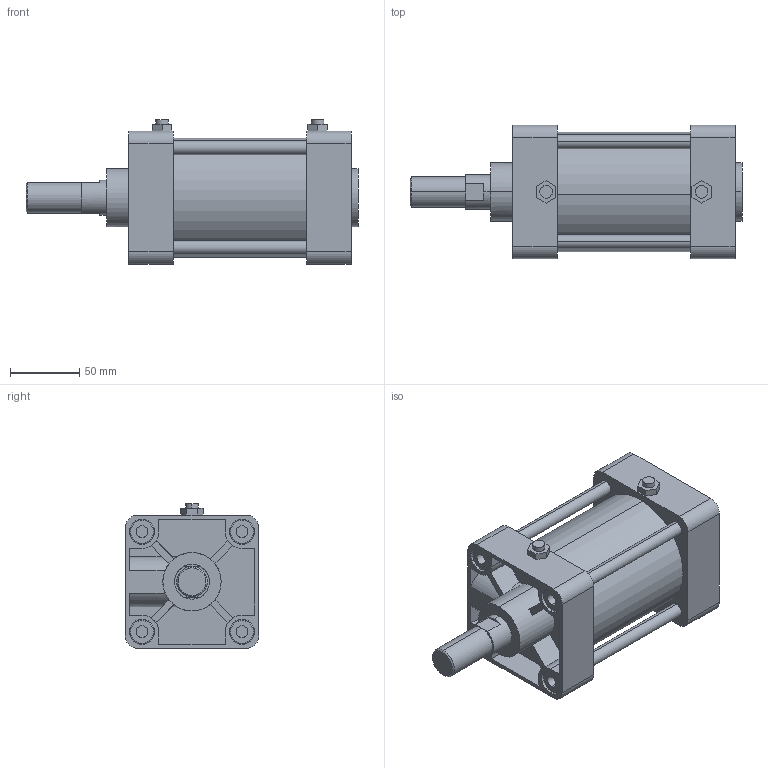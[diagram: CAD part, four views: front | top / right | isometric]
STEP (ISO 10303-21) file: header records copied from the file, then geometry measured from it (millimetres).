
FILE_DESCRIPTION (( 'STEP AP203' ), '1' );
FILE_NAME ('KG2-80-50-N.STEP', '2016-04-01T08:20:36', ( '' ), ( '' ), 'SwSTEP 2.0', 'SolidWorks 2014', '' );
FILE_SCHEMA (( 'CONFIG_CONTROL_DESIGN' ));
Length unit declared in the file: millimetre
Products named in the file (6): KG2-80-After; KG2-80-50-N; KGLH2-80-50
Assembly tree (15 placements, depth 2):
  KG2-80-50-N
    KG2-80-After
    KGLH2-80-50
    (unnamed)
    (unnamed)  x4
    (unnamed)  x8
Bounding box: 239 x 96 x 104.3 mm (x, y, z)
Volume: 1055501.6 mm3; surface area: 170860.5 mm2
Topology: 15 solids, 15 shells, 309 faces, 728 edges, 464 vertices
Faces by surface type: plane 133, cylinder 118, torus 32, cone 26
Entity records: 7508 total; most frequent: CARTESIAN_POINT 1253, DIRECTION 1184, ORIENTED_EDGE 1076, EDGE_CURVE 538, AXIS2_PLACEMENT_3D 437, VERTEX_POINT 354, VECTOR 310, LINE 310
